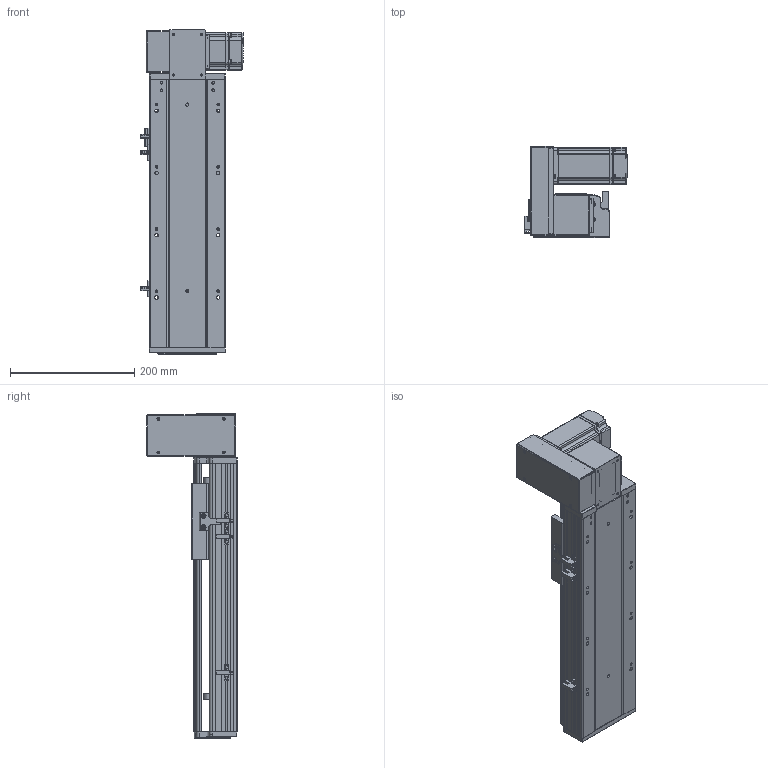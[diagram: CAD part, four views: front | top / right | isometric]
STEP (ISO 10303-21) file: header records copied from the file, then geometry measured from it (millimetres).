
FILE_DESCRIPTION (( 'STEP AP203' ), '1' );
FILE_NAME ('RY120-T-300-UL.SLDASM_200.step', '2021-03-01T05:35:00', ( '盈信电脑' ), ( '东莞市道滘镇水果街19号' ), 'SwSTEP 2.0', 'SolidWorks 2012', '' );
FILE_SCHEMA (( 'CONFIG_CONTROL_DESIGN' ));
Products named in the file (18): RY120-T翋肮祭盓傅釱; RY120-T萇儂假蚾啣; RY120-T肮祭湍揤踡輸1; RY120-T肮祭湍揤踡輸2; RY120外置感应片(140共用）; RY120-T-300-UL.SLDASM_200; RY120-T蹟翐M4; RY120-T翋肮祭謫裔啣; 侂狟400W侜督萇儂; RY120-T主同步轮轴承压盖; RY120-T萇儂欶; 滅袉蝶18-10; 15; 覜茼ん672; RY120綴裔啣; RY120肮祭湍臏賑輸; RY120-T-300-UL倰第菁釱_200; RY120-T-300-UL倰第奻裔啣_200
Assembly tree (23 placements, depth 3):
  RY120-T-300-UL.SLDASM_200
    RY120-T-300-UL倰第菁釱_200
    RY120-T-300-UL倰第奻裔啣_200
    RY120肮祭湍臏賑輸
    RY120綴裔啣
    覜茼ん672  x3
    RY120外置感应片(140共用）
    RY120-T肮祭湍揤踡輸1
    RY120-T肮祭湍揤踡輸2
    RY120-T翋肮祭盓傅釱
    RY120-T萇儂假蚾啣
    侂狟400W侜督萇儂
      15
    RY120-T主同步轮轴承压盖
    滅袉蝶18-10  x2
    RY120-T萇儂欶
    RY120-T蹟翐M4  x4
    RY120-T翋肮祭謫裔啣
Bounding box: 164.2 x 146 x 521 mm (x, y, z)
Volume: 1865827.4 mm3; surface area: 656407.5 mm2
Topology: 23 solids, 23 shells, 2582 faces, 7004 edges, 4516 vertices
Faces by surface type: plane 1382, cylinder 920, cone 191, bspline 89
Entity records: 81132 total; most frequent: CARTESIAN_POINT 19920, ORIENTED_EDGE 12536, DIRECTION 11930, EDGE_CURVE 6268, VERTEX_POINT 4103, LINE 4056, VECTOR 4056, AXIS2_PLACEMENT_3D 3937
